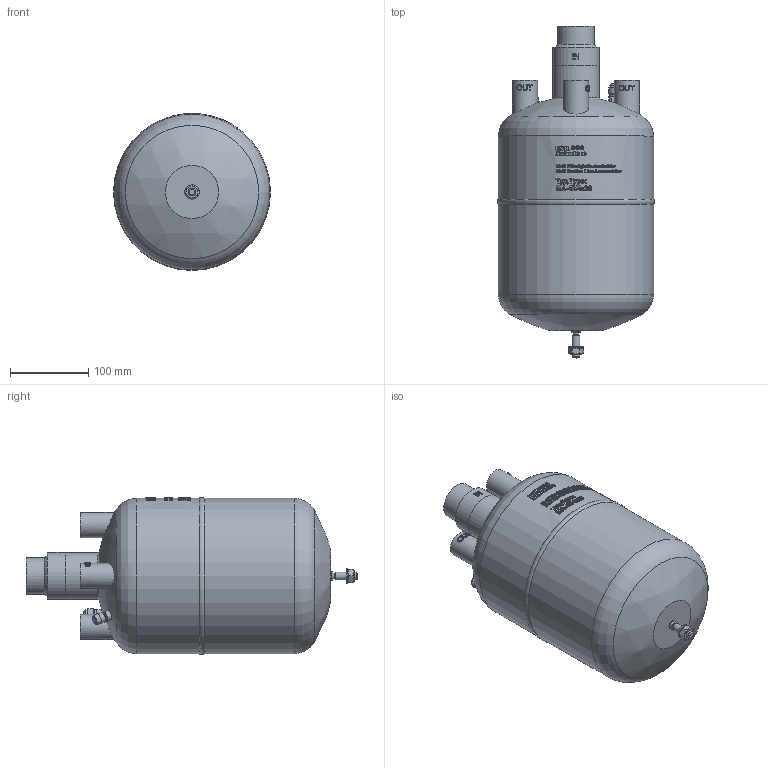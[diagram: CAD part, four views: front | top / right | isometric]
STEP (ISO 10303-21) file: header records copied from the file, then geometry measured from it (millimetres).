
FILE_DESCRIPTION(/* description */ (''),/* implementation_level */ '2;1');
FILE_NAME(/* name */ 'P:\MA\MA-42_4x28\MA-42_4x28_ab 300517.stp',/* time_stamp */ '2017-05-30T11:08:34+02:00',/* author */ ('Goerner'),/* organization */ (''),/* preprocessor_version */ 'ST-DEVELOPER v16.1',/* originating_system */ 'Autodesk Inventor 2016',/* authorisation */ '');
FILE_SCHEMA (('AUTOMOTIVE_DESIGN { 1 0 10303 214 3 1 1 }'));
Length unit declared in the file: millimetre
Products named in the file (1): MA-42_4x28_Rev.1_AG-Kunde
Bounding box: 200.2 x 423.31 x 200.2 mm (x, y, z)
Volume: 8473889.6 mm3; surface area: 260371.5 mm2
Topology: 1 solids, 6 shells, 1587 faces, 4223 edges, 2808 vertices
Faces by surface type: plane 880, bspline 494, cylinder 181, cone 21, torus 8, sphere 3
Full cylindrical faces by diameter (mm): 1.372 x1, 1.524 x1, 1.778 x1, 1.829 x1, 3.2 x1, 3.7 x2, 3.886 x1, 4.64 x2, 5.4 x1, 7 x1, 7.2 x1, 8.9 x2, 9.8 x1, 10 x3, 11.5 x1, 12 x1, 12.3 x1, 12.7 x1, 12.9 x1, 13.5 x1, 15.7 x1, 16 x1, 28.7 x4, 32 x4, 39.2 x1, 42.2 x1, 47 x1, 59 x1, 59.5 x1, 198 x2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
Entity records: 60204 total; most frequent: CARTESIAN_POINT 23177, ORIENTED_EDGE 8268, DIRECTION 6442, EDGE_CURVE 4134, VERTEX_POINT 2788, AXIS2_PLACEMENT_3D 2229, LINE 1984, VECTOR 1984
